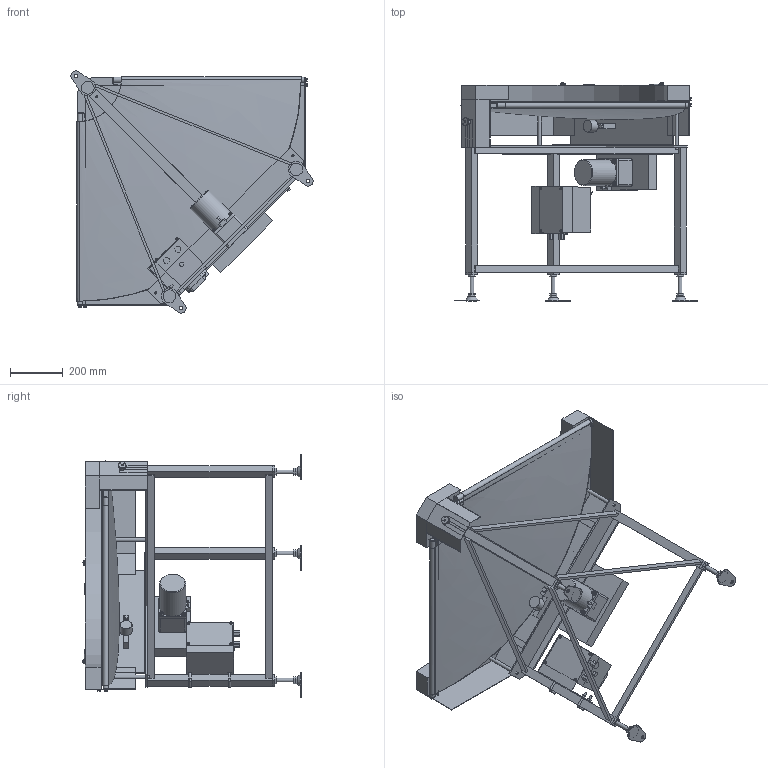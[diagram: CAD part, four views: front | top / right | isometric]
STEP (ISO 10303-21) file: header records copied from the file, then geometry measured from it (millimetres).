
FILE_DESCRIPTION (( 'STEP AP214' ), '1' );
FILE_NAME ('FFBC3-UD-309-600-90°-R-IV-60.STEP', '2023-04-18T07:36:39', ( '' ), ( '' ), 'SwSTEP 2.0', 'SolidWorks 2017', '' );
FILE_SCHEMA (( 'AUTOMOTIVE_DESIGN' ));
Length unit declared in the file: millimetre
Products named in the file (1): FFBC3-UD-309-600-90°-R-IV-60
Bounding box: 917.16 x 827.92 x 917.16 mm (x, y, z)
Volume: 26426354.6 mm3; surface area: 5934447.1 mm2
Topology: 57 solids, 58 shells, 1027 faces, 2338 edges, 1510 vertices
Faces by surface type: plane 743, cylinder 203, bspline 44, cone 23, torus 12, sphere 2
Full cylindrical faces by diameter (mm): 4 x4, 4.2 x2, 4.5 x1, 5 x4, 5.9 x4, 7 x1, 7.6 x4, 7.8 x1, 8 x18, 8.4 x4, 8.5 x8, 9 x6, 12.5 x4, 13 x11, 13.8 x3, 15 x4, 16 x9, 17 x9, 18 x4, 20 x3, 25 x1, 30 x2, 42 x1, 45 x1, 99 x1
Entity records: 46326 total; most frequent: CARTESIAN_POINT 12104, DIRECTION 4451, ORIENTED_EDGE 4298, EDGE_CURVE 2149, LINE 1533, VECTOR 1533, VERTEX_POINT 1472, AXIS2_PLACEMENT_3D 1459
